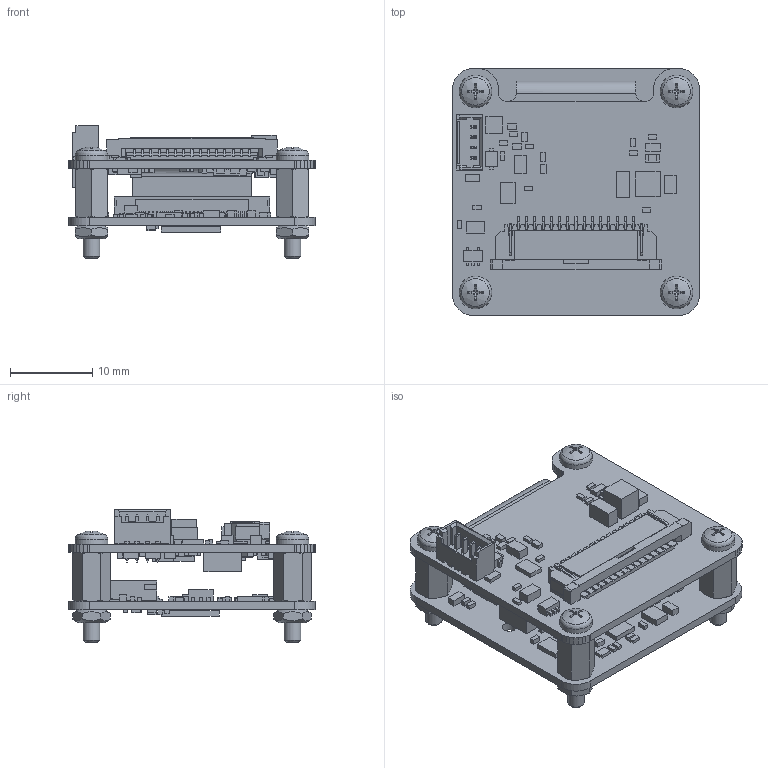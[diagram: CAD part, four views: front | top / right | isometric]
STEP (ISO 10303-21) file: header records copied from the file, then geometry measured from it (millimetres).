
FILE_DESCRIPTION(/* description */ ('289-20-1-03-00-a'),/* implementation_level */ '2;1');
FILE_NAME(/* name */ 'D:\HiDrive\1_Konstruktion\1_KUNDEN\TIS\289-20_MIPI-Dokumentation\KundenStepModell (KSM)\289-20-1_MIPI-AX-Modul (Kombi_CSI2-Sensorb)\289-20-1-03-00-a_AX-R120_IMX335-R110.stp',/* time_stamp */ '2020-12-17T08:32:05+01:00',/* author */ ('Westermann'),/* organization */ ('TIS, Bremen-Germany'),/* preprocessor_version */ 'ST-DEVELOPER v16.5',/* originating_system */ 'Autodesk Inventor 2017',/* authorisation */ '');
FILE_SCHEMA (('AUTOMOTIVE_DESIGN { 1 0 10303 214 3 1 1 }'));
Products named in the file (6): 289-20-1-03-00-a_AX-R120_IMX335-R110; ISO 4032 - M2; ISO 7045 - M2 x 4 - 4.8 - H; IMX335_MIPI_HB_R1_10; TISMIPI_JetsonNano_Adapter_folded_R1-20; Distanzbolzen-IA-M2x6_0100018_SIBALCO
Assembly tree (14 placements, depth 2):
  289-20-1-03-00-a_AX-R120_IMX335-R110
    ISO 4032 - M2  x4
    ISO 7045 - M2 x 4 - 4.8 - H  x4
    IMX335_MIPI_HB_R1_10
    TISMIPI_JetsonNano_Adapter_folded_R1-20
    Distanzbolzen-IA-M2x6_0100018_SIBALCO  x4
Bounding box: 30.1 x 30.1 x 16.21 mm (x, y, z)
Volume: 2975 mm3; surface area: 7297.7 mm2
Topology: 18 solids, 18 shells, 3540 faces, 9839 edges, 6377 vertices
Faces by surface type: plane 3145, cylinder 239, cone 124, torus 28, sphere 4
Full cylindrical faces by diameter (mm): 0.5 x5, 1.4 x4, 1.567 x8, 1.7 x2, 1.783 x4, 2 x8, 2.1 x8
Entity records: 108763 total; most frequent: CARTESIAN_POINT 18839, ORIENTED_EDGE 18614, DIRECTION 16449, EDGE_CURVE 9303, LINE 8749, VECTOR 8749, VERTEX_POINT 6068, AXIS2_PLACEMENT_3D 3850
